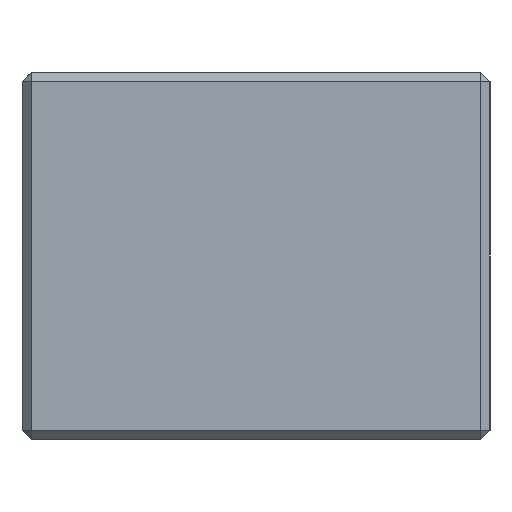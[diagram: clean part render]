
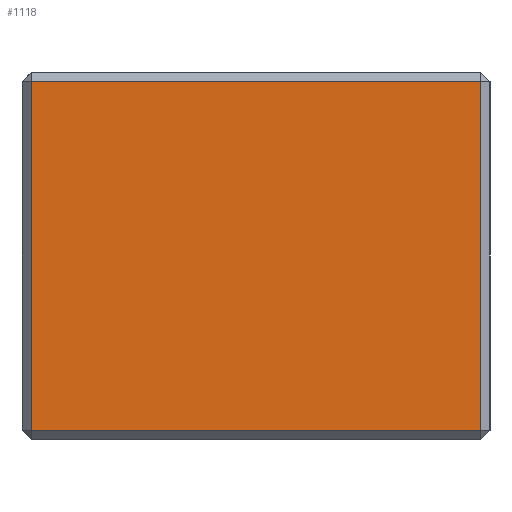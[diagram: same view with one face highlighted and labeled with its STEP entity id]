
A CAD part, left-side view. The second image highlights one B-rep face of the part: STEP entity #1118.
In plain terms, the highlighted planar face has unit normal (-1, 0, 0).
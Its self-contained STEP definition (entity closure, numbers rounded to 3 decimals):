
#1091 = ORIENTED_EDGE ( 'NONE', *, *, #1122, .T. ) ;
#1118 = ADVANCED_FACE ( 'NONE', ( #1795 ), #1794, .F. ) ;
#1119 = EDGE_LOOP ( 'NONE', ( #1133, #1125, #1091, #1274 ) ) ;
#1122 = EDGE_CURVE ( 'NONE', #1131, #1124, #1785, .T. ) ;
#1124 = VERTEX_POINT ( 'NONE', #1781 ) ;
#1125 = ORIENTED_EDGE ( 'NONE', *, *, #1126, .T. ) ;
#1126 = EDGE_CURVE ( 'NONE', #1130, #1131, #1780, .T. ) ;
#1127 = VERTEX_POINT ( 'NONE', #1776 ) ;
#1129 = EDGE_CURVE ( 'NONE', #1127, #1130, #1771, .T. ) ;
#1130 = VERTEX_POINT ( 'NONE', #1830 ) ;
#1131 = VERTEX_POINT ( 'NONE', #1829 ) ;
#1133 = ORIENTED_EDGE ( 'NONE', *, *, #1129, .T. ) ;
#1152 = EDGE_CURVE ( 'NONE', #1124, #1127, #1850, .T. ) ;
#1274 = ORIENTED_EDGE ( 'NONE', *, *, #1152, .T. ) ;
#1768 = DIRECTION ( 'NONE',  ( 0., -1., 0. ) ) ;
#1769 = VECTOR ( 'NONE', #1768, 1000. ) ;
#1770 = CARTESIAN_POINT ( 'NONE',  ( -43., 28., -19. ) ) ;
#1771 = LINE ( 'NONE', #1770, #1769 ) ;
#1776 = CARTESIAN_POINT ( 'NONE',  ( -43., 27., -19. ) ) ;
#1777 = DIRECTION ( 'NONE',  ( 0., 0., 1. ) ) ;
#1778 = VECTOR ( 'NONE', #1777, 1000. ) ;
#1779 = CARTESIAN_POINT ( 'NONE',  ( -43., -22., 20. ) ) ;
#1780 = LINE ( 'NONE', #1779, #1778 ) ;
#1781 = CARTESIAN_POINT ( 'NONE',  ( -43., 27., 19. ) ) ;
#1782 = DIRECTION ( 'NONE',  ( 0., 1., 0. ) ) ;
#1783 = VECTOR ( 'NONE', #1782, 1000. ) ;
#1784 = CARTESIAN_POINT ( 'NONE',  ( -43., 28., 19. ) ) ;
#1785 = LINE ( 'NONE', #1784, #1783 ) ;
#1790 = DIRECTION ( 'NONE',  ( 0., 1., 0. ) ) ;
#1791 = DIRECTION ( 'NONE',  ( 1., 0., 0. ) ) ;
#1792 = AXIS2_PLACEMENT_3D ( 'NONE', #1793, #1791, #1790 ) ;
#1793 = CARTESIAN_POINT ( 'NONE',  ( -43., 28., 20. ) ) ;
#1794 = PLANE ( 'NONE',  #1792 ) ;
#1795 = FACE_OUTER_BOUND ( 'NONE', #1119, .T. ) ;
#1829 = CARTESIAN_POINT ( 'NONE',  ( -43., -22., 19. ) ) ;
#1830 = CARTESIAN_POINT ( 'NONE',  ( -43., -22., -19. ) ) ;
#1847 = DIRECTION ( 'NONE',  ( 0., 0., -1. ) ) ;
#1848 = VECTOR ( 'NONE', #1847, 1000. ) ;
#1849 = CARTESIAN_POINT ( 'NONE',  ( -43., 27., 20. ) ) ;
#1850 = LINE ( 'NONE', #1849, #1848 ) ;
